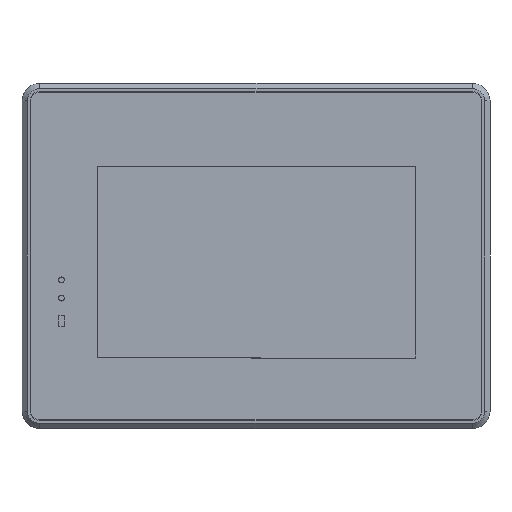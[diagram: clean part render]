
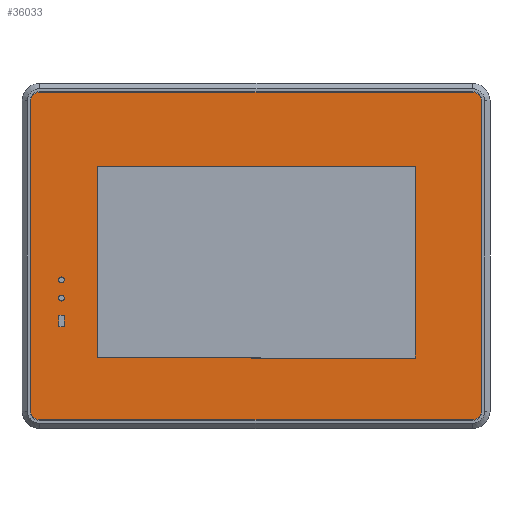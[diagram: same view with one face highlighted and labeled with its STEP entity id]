
A CAD part, front view. The second image highlights one B-rep face of the part: STEP entity #36033.
In plain terms, the highlighted planar face has unit normal (0, -1, 0).
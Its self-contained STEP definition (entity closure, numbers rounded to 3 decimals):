
#3867=CARTESIAN_POINT('',(74.,0.,53.));
#3868=DIRECTION('',(0.,1.,0.));
#3869=DIRECTION('',(0.,0.,1.));
#3870=AXIS2_PLACEMENT_3D('',#3867,#3868,#3869);
#3872=DIRECTION('',(0.,0.,-1.));
#3873=VECTOR('',#3872,106.);
#3874=CARTESIAN_POINT('',(77.05,0.,53.));
#3875=LINE('',#3874,#3873);
#3876=CARTESIAN_POINT('',(74.,0.,-53.));
#3877=DIRECTION('',(0.,1.,0.));
#3878=DIRECTION('',(1.,0.,0.));
#3879=AXIS2_PLACEMENT_3D('',#3876,#3877,#3878);
#3881=DIRECTION('',(-1.,0.,0.));
#3882=VECTOR('',#3881,148.);
#3883=CARTESIAN_POINT('',(74.,0.,-56.05));
#3884=LINE('',#3883,#3882);
#3885=CARTESIAN_POINT('',(-74.,0.,-53.));
#3886=DIRECTION('',(0.,1.,0.));
#3887=DIRECTION('',(0.,0.,-1.));
#3888=AXIS2_PLACEMENT_3D('',#3885,#3886,#3887);
#3890=DIRECTION('',(0.,0.,1.));
#3891=VECTOR('',#3890,106.);
#3892=CARTESIAN_POINT('',(-77.05,0.,-53.));
#3893=LINE('',#3892,#3891);
#3894=CARTESIAN_POINT('',(-74.,0.,53.));
#3895=DIRECTION('',(0.,1.,0.));
#3896=DIRECTION('',(-1.,0.,0.));
#3897=AXIS2_PLACEMENT_3D('',#3894,#3895,#3896);
#3899=DIRECTION('',(1.,0.,0.));
#3900=VECTOR('',#3899,148.);
#3901=CARTESIAN_POINT('',(-74.,0.,56.05));
#3902=LINE('',#3901,#3900);
#3903=DIRECTION('',(0.,0.,1.));
#3904=VECTOR('',#3903,65.6);
#3905=CARTESIAN_POINT('',(54.457,0.,-34.875));
#3906=LINE('',#3905,#3904);
#3907=DIRECTION('',(-1.,0.,0.));
#3908=VECTOR('',#3907,108.8);
#3909=CARTESIAN_POINT('',(54.461,0.,30.724));
#3910=LINE('',#3909,#3908);
#3911=DIRECTION('',(0.,0.,-1.));
#3912=VECTOR('',#3911,65.6);
#3913=CARTESIAN_POINT('',(-54.339,0.,30.732));
#3914=LINE('',#3913,#3912);
#3915=DIRECTION('',(1.,0.,0.));
#3916=VECTOR('',#3915,108.8);
#3917=CARTESIAN_POINT('',(-54.343,0.,-34.868));
#3918=LINE('',#3917,#3916);
#3919=CARTESIAN_POINT('',(-66.509,0.,-14.397));
#3920=DIRECTION('',(0.,-1.,0.));
#3921=DIRECTION('',(-1.,0.,0.));
#3922=AXIS2_PLACEMENT_3D('',#3919,#3920,#3921);
#3924=CARTESIAN_POINT('',(-66.509,0.,-14.397));
#3925=DIRECTION('',(0.,-1.,0.));
#3926=DIRECTION('',(1.,0.,0.));
#3927=AXIS2_PLACEMENT_3D('',#3924,#3925,#3926);
#3929=CARTESIAN_POINT('',(-66.508,0.,-8.174));
#3930=DIRECTION('',(0.,-1.,0.));
#3931=DIRECTION('',(-1.,0.,0.));
#3932=AXIS2_PLACEMENT_3D('',#3929,#3930,#3931);
#3934=CARTESIAN_POINT('',(-66.508,0.,-8.174));
#3935=DIRECTION('',(0.,-1.,0.));
#3936=DIRECTION('',(1.,0.,0.));
#3937=AXIS2_PLACEMENT_3D('',#3934,#3935,#3936);
#3939=DIRECTION('',(-1.,0.,0.));
#3940=VECTOR('',#3939,1.);
#3941=CARTESIAN_POINT('',(-66.01,0.,-20.255));
#3942=LINE('',#3941,#3940);
#3943=CARTESIAN_POINT('',(-67.01,0.,-20.755));
#3944=DIRECTION('',(0.,-1.,0.));
#3945=DIRECTION('',(0.,0.,1.));
#3946=AXIS2_PLACEMENT_3D('',#3943,#3944,#3945);
#3948=DIRECTION('',(0.,0.,-1.));
#3949=VECTOR('',#3948,3.);
#3950=CARTESIAN_POINT('',(-67.51,0.,-20.755));
#3951=LINE('',#3950,#3949);
#3952=CARTESIAN_POINT('',(-67.01,0.,-23.755));
#3953=DIRECTION('',(0.,-1.,0.));
#3954=DIRECTION('',(-1.,0.,0.));
#3955=AXIS2_PLACEMENT_3D('',#3952,#3953,#3954);
#3957=DIRECTION('',(1.,0.,0.));
#3958=VECTOR('',#3957,1.);
#3959=CARTESIAN_POINT('',(-67.01,0.,-24.255));
#3960=LINE('',#3959,#3958);
#3961=CARTESIAN_POINT('',(-66.01,0.,-23.755));
#3962=DIRECTION('',(0.,-1.,0.));
#3963=DIRECTION('',(0.,0.,-1.));
#3964=AXIS2_PLACEMENT_3D('',#3961,#3962,#3963);
#3966=DIRECTION('',(0.,0.,1.));
#3967=VECTOR('',#3966,3.);
#3968=CARTESIAN_POINT('',(-65.51,0.,-23.755));
#3969=LINE('',#3968,#3967);
#3970=CARTESIAN_POINT('',(-66.01,0.,-20.755));
#3971=DIRECTION('',(0.,-1.,0.));
#3972=DIRECTION('',(1.,0.,0.));
#3973=AXIS2_PLACEMENT_3D('',#3970,#3971,#3972);
#28583=CARTESIAN_POINT('',(74.,0.,56.05));
#28584=CARTESIAN_POINT('',(77.05,0.,53.));
#28585=VERTEX_POINT('',#28583);
#28586=VERTEX_POINT('',#28584);
#28587=CARTESIAN_POINT('',(77.05,0.,-53.));
#28588=VERTEX_POINT('',#28587);
#28589=CARTESIAN_POINT('',(74.,0.,-56.05));
#28590=VERTEX_POINT('',#28589);
#28591=CARTESIAN_POINT('',(-74.,0.,-56.05));
#28592=VERTEX_POINT('',#28591);
#28593=CARTESIAN_POINT('',(-77.05,0.,-53.));
#28594=VERTEX_POINT('',#28593);
#28595=CARTESIAN_POINT('',(-77.05,0.,53.));
#28596=VERTEX_POINT('',#28595);
#28597=CARTESIAN_POINT('',(-74.,0.,56.05));
#28598=VERTEX_POINT('',#28597);
#28599=CARTESIAN_POINT('',(54.457,0.,-34.875));
#28600=CARTESIAN_POINT('',(54.461,0.,30.724));
#28601=VERTEX_POINT('',#28599);
#28602=VERTEX_POINT('',#28600);
#28603=CARTESIAN_POINT('',(-54.339,0.,30.732));
#28604=VERTEX_POINT('',#28603);
#28605=CARTESIAN_POINT('',(-54.343,0.,-34.868));
#28606=VERTEX_POINT('',#28605);
#28607=CARTESIAN_POINT('',(-67.509,0.,-14.397));
#28608=CARTESIAN_POINT('',(-65.509,0.,-14.397));
#28609=VERTEX_POINT('',#28607);
#28610=VERTEX_POINT('',#28608);
#28611=CARTESIAN_POINT('',(-67.508,0.,-8.174));
#28612=CARTESIAN_POINT('',(-65.508,0.,-8.174));
#28613=VERTEX_POINT('',#28611);
#28614=VERTEX_POINT('',#28612);
#28615=CARTESIAN_POINT('',(-66.01,0.,-20.255));
#28616=CARTESIAN_POINT('',(-67.01,0.,-20.255));
#28617=VERTEX_POINT('',#28615);
#28618=VERTEX_POINT('',#28616);
#28619=CARTESIAN_POINT('',(-67.51,0.,-20.755));
#28620=VERTEX_POINT('',#28619);
#28621=CARTESIAN_POINT('',(-67.51,0.,-23.755));
#28622=VERTEX_POINT('',#28621);
#28623=CARTESIAN_POINT('',(-67.01,0.,-24.255));
#28624=VERTEX_POINT('',#28623);
#28625=CARTESIAN_POINT('',(-66.01,0.,-24.255));
#28626=VERTEX_POINT('',#28625);
#28627=CARTESIAN_POINT('',(-65.51,0.,-23.755));
#28628=VERTEX_POINT('',#28627);
#28629=CARTESIAN_POINT('',(-65.51,0.,-20.755));
#28630=VERTEX_POINT('',#28629);
#35971=CARTESIAN_POINT('',(0.,0.,0.));
#35972=DIRECTION('',(0.,1.,0.));
#35973=DIRECTION('',(1.,0.,0.));
#35974=AXIS2_PLACEMENT_3D('',#35971,#35972,#35973);
#35975=PLANE('',#35974);
#35976=ORIENTED_EDGE('',*,*,#35961,.T.);
#35978=ORIENTED_EDGE('',*,*,#35977,.T.);
#35980=ORIENTED_EDGE('',*,*,#35979,.T.);
#35982=ORIENTED_EDGE('',*,*,#35981,.T.);
#35984=ORIENTED_EDGE('',*,*,#35983,.T.);
#35986=ORIENTED_EDGE('',*,*,#35985,.T.);
#35988=ORIENTED_EDGE('',*,*,#35987,.T.);
#35990=ORIENTED_EDGE('',*,*,#35989,.T.);
#35991=EDGE_LOOP('',(#35976,#35978,#35980,#35982,#35984,#35986,#35988,#35990));
#35992=FACE_OUTER_BOUND('',#35991,.F.);
#35994=ORIENTED_EDGE('',*,*,#35993,.T.);
#35996=ORIENTED_EDGE('',*,*,#35995,.T.);
#35998=ORIENTED_EDGE('',*,*,#35997,.T.);
#36000=ORIENTED_EDGE('',*,*,#35999,.T.);
#36001=EDGE_LOOP('',(#35994,#35996,#35998,#36000));
#36002=FACE_BOUND('',#36001,.F.);
#36004=ORIENTED_EDGE('',*,*,#36003,.T.);
#36006=ORIENTED_EDGE('',*,*,#36005,.T.);
#36007=EDGE_LOOP('',(#36004,#36006));
#36008=FACE_BOUND('',#36007,.F.);
#36010=ORIENTED_EDGE('',*,*,#36009,.T.);
#36012=ORIENTED_EDGE('',*,*,#36011,.T.);
#36013=EDGE_LOOP('',(#36010,#36012));
#36014=FACE_BOUND('',#36013,.F.);
#36016=ORIENTED_EDGE('',*,*,#36015,.T.);
#36018=ORIENTED_EDGE('',*,*,#36017,.T.);
#36020=ORIENTED_EDGE('',*,*,#36019,.T.);
#36022=ORIENTED_EDGE('',*,*,#36021,.T.);
#36024=ORIENTED_EDGE('',*,*,#36023,.T.);
#36026=ORIENTED_EDGE('',*,*,#36025,.T.);
#36028=ORIENTED_EDGE('',*,*,#36027,.T.);
#36030=ORIENTED_EDGE('',*,*,#36029,.T.);
#36031=EDGE_LOOP('',(#36016,#36018,#36020,#36022,#36024,#36026,#36028,#36030));
#36032=FACE_BOUND('',#36031,.F.);
#3871=CIRCLE('',#3870,3.05);
#3880=CIRCLE('',#3879,3.05);
#3889=CIRCLE('',#3888,3.05);
#3898=CIRCLE('',#3897,3.05);
#3923=CIRCLE('',#3922,1.);
#3928=CIRCLE('',#3927,1.);
#3933=CIRCLE('',#3932,1.);
#3938=CIRCLE('',#3937,1.);
#3947=CIRCLE('',#3946,0.5);
#3956=CIRCLE('',#3955,0.5);
#3965=CIRCLE('',#3964,0.5);
#3974=CIRCLE('',#3973,0.5);
#35961=EDGE_CURVE('',#28585,#28586,#3871,.T.);
#35977=EDGE_CURVE('',#28586,#28588,#3875,.T.);
#35979=EDGE_CURVE('',#28588,#28590,#3880,.T.);
#35981=EDGE_CURVE('',#28590,#28592,#3884,.T.);
#35983=EDGE_CURVE('',#28592,#28594,#3889,.T.);
#35985=EDGE_CURVE('',#28594,#28596,#3893,.T.);
#35987=EDGE_CURVE('',#28596,#28598,#3898,.T.);
#35989=EDGE_CURVE('',#28598,#28585,#3902,.T.);
#35993=EDGE_CURVE('',#28601,#28602,#3906,.T.);
#35995=EDGE_CURVE('',#28602,#28604,#3910,.T.);
#35997=EDGE_CURVE('',#28604,#28606,#3914,.T.);
#35999=EDGE_CURVE('',#28606,#28601,#3918,.T.);
#36003=EDGE_CURVE('',#28609,#28610,#3923,.T.);
#36005=EDGE_CURVE('',#28610,#28609,#3928,.T.);
#36009=EDGE_CURVE('',#28613,#28614,#3933,.T.);
#36011=EDGE_CURVE('',#28614,#28613,#3938,.T.);
#36015=EDGE_CURVE('',#28617,#28618,#3942,.T.);
#36017=EDGE_CURVE('',#28618,#28620,#3947,.T.);
#36019=EDGE_CURVE('',#28620,#28622,#3951,.T.);
#36021=EDGE_CURVE('',#28622,#28624,#3956,.T.);
#36023=EDGE_CURVE('',#28624,#28626,#3960,.T.);
#36025=EDGE_CURVE('',#28626,#28628,#3965,.T.);
#36027=EDGE_CURVE('',#28628,#28630,#3969,.T.);
#36029=EDGE_CURVE('',#28630,#28617,#3974,.T.);
#36033=ADVANCED_FACE('',(#35992,#36002,#36008,#36014,#36032),#35975,.F.);
